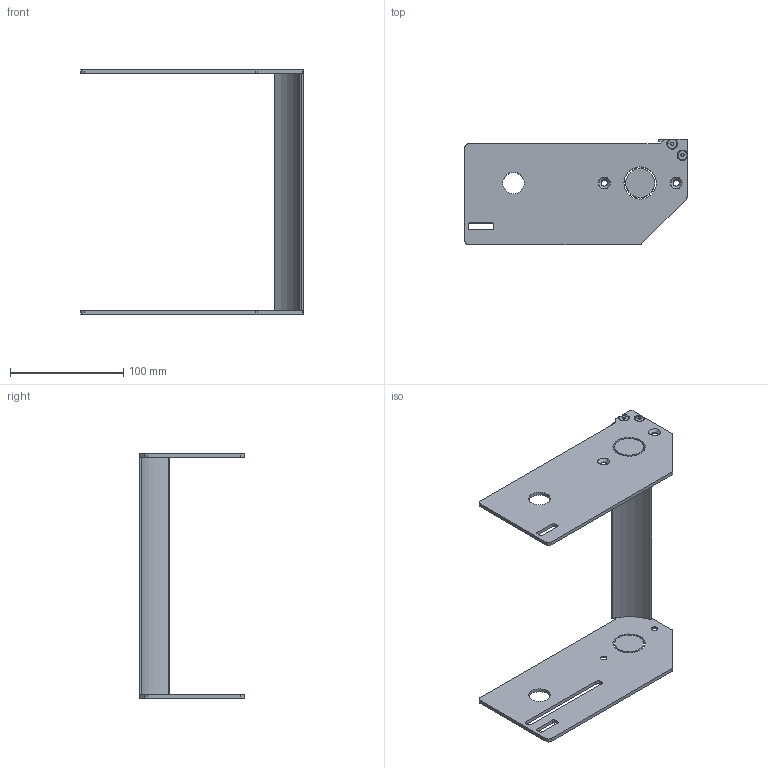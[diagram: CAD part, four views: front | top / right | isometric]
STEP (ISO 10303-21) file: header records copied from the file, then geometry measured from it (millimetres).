
FILE_DESCRIPTION((''),'2;1');
FILE_NAME('351040-08_ASM','2016-12-28T',('jenni.wallner'),(''),'PRO/ENGINEER BY PARAMETRIC TECHNOLOGY CORPORATION, 2012420','PRO/ENGINEER BY PARAMETRIC TECHNOLOGY CORPORATION, 2012420','');
FILE_SCHEMA(('CONFIG_CONTROL_DESIGN'));
Length unit declared in the file: inch
Products named in the file (6): 350538; 9304XXM_930410M; 350537; 350539-WW_350539-08; ASM0002_ASM; 351040-08_ASM
Assembly tree (8 placements, depth 3):
  351040-08_ASM
    ASM0002_ASM
      350538
      9304XXM_930410M  x4
      350537
      350539-WW_350539-08
Bounding box: 196.06 x 92.74 x 215.54 mm (x, y, z)
Volume: 158788 mm3; surface area: 93487.4 mm2
Topology: 7 solids, 7 shells, 216 faces, 536 edges, 334 vertices
Faces by surface type: cylinder 80, plane 76, cone 60
Entity records: 4974 total; most frequent: CARTESIAN_POINT 910, DIRECTION 885, ORIENTED_EDGE 790, EDGE_CURVE 395, AXIS2_PLACEMENT_3D 339, VERTEX_POINT 256, VECTOR 207, LINE 207
